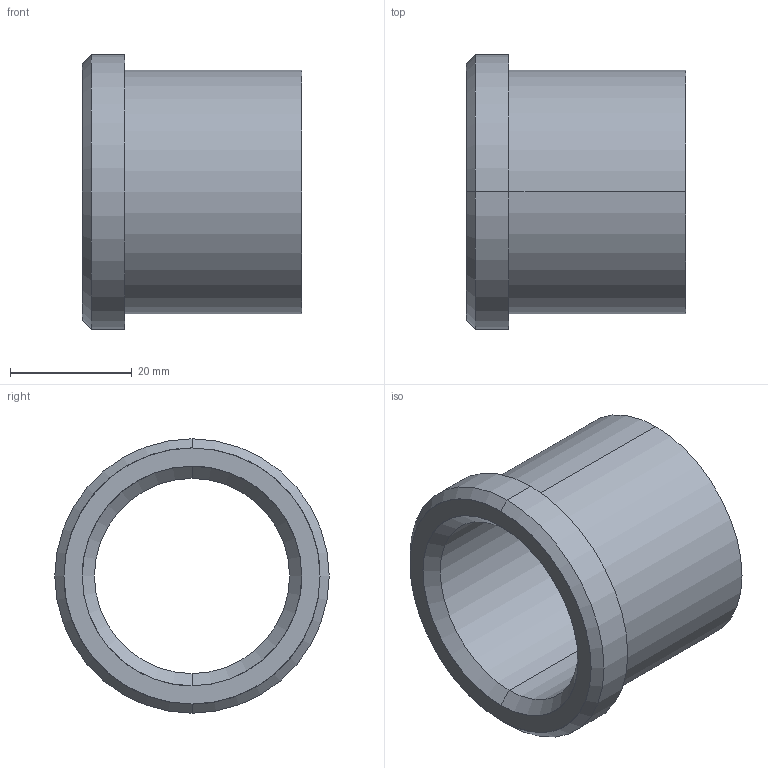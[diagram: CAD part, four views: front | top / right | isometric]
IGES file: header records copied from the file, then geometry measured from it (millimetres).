
Start section: START RECORD GO HERE.
Global section: file name: 353-32X36.igs; native system: DASSAULT SYSTEMES CATIA V5 R20 - www.3ds.com; preprocessor: CATIA Version 5 Release 20 ; author: Utente; organization: NB04-ASUS; date: 20210512.205757; units: millimetre
Bounding box: 36 x 45 x 45 mm (x, y, z)
Surface area: 9501.1 mm2 (no closed solid volume)
Topology: 0 solids, 0 shells, 15 faces, 96 edges, 96 vertices
Faces by surface type: revolution 12, plane 3
